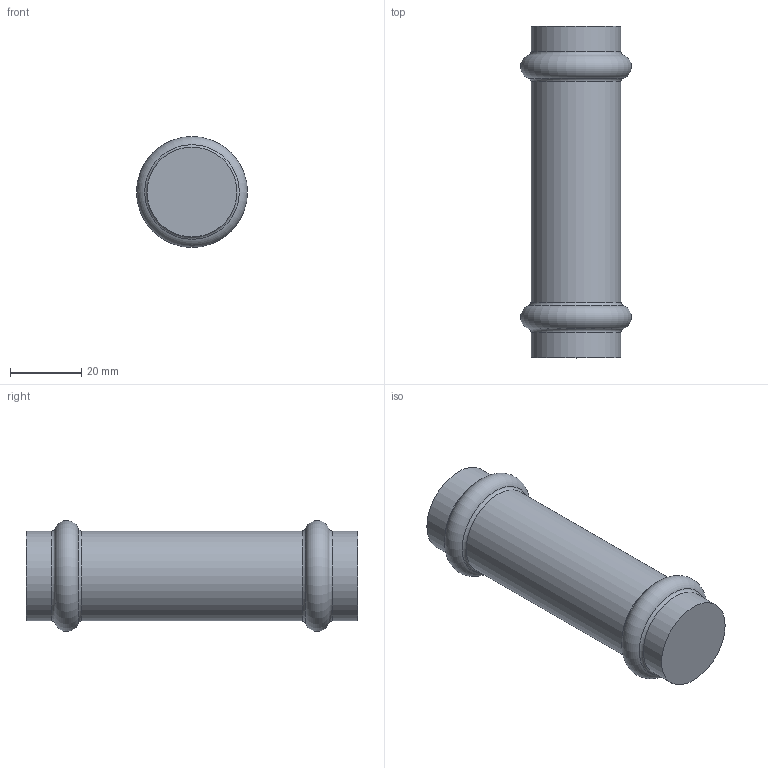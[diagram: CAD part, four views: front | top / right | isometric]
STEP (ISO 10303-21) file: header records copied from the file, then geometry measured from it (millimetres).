
FILE_DESCRIPTION(('STEP AP203'), '1');
FILE_NAME('VTi.904.I.002222', '', ('UNSPECIFIED'), ('UNSPECIFIED'), 'C3D Converter', 'C3D Toolkit', '');
FILE_SCHEMA(('CONFIG_CONTROL_DESIGN'));
Length unit declared in the file: millimetre
Bounding box: 31.1 x 93 x 31.1 mm (x, y, z)
Volume: 49064.3 mm3; surface area: 8998.5 mm2
Topology: 1 solids, 1 shells, 11 faces, 19 edges, 10 vertices
Faces by surface type: torus 6, cylinder 3, plane 2
Full cylindrical faces by diameter (mm): 25.2 x3
Entity records: 254 total; most frequent: DIRECTION 44, CARTESIAN_POINT 32, AXIS2_PLACEMENT_3D 22, EDGE_LOOP 20, ORIENTED_EDGE 20, FACE_OUTER_BOUND 18, ADVANCED_FACE 11, EDGE_CURVE 10
